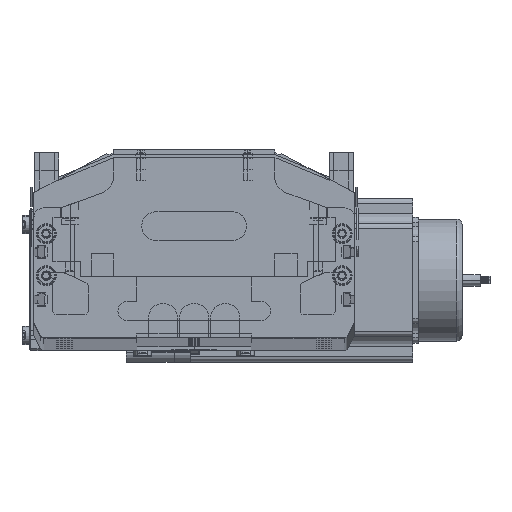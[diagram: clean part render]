
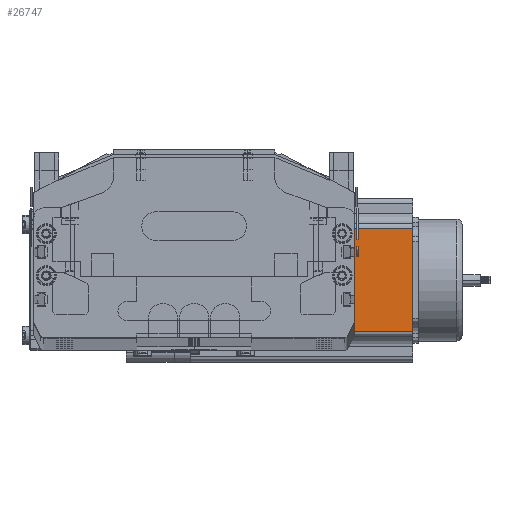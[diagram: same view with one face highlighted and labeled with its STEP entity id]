
A CAD part, top view. The second image highlights one B-rep face of the part: STEP entity #26747.
In plain terms, the highlighted planar face has unit normal (0, 0, 1) as drawn and (0, -1, 0) by its records, which use the part's own axes.
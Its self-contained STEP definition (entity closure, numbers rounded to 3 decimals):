
#4290 = DIRECTION ( 'NONE',  ( 1., 0., 0. ) ) ;
#4292 = VECTOR ( 'NONE', #4290, 1000. ) ;
#4294 = CARTESIAN_POINT ( 'NONE',  ( 0., 0., 0. ) ) ;
#4297 = LINE ( 'NONE', #4294, #4292 ) ;
#4443 = DIRECTION ( 'NONE',  ( 0., 0., 1. ) ) ;
#4445 = VECTOR ( 'NONE', #4443, 1000. ) ;
#4514 = CARTESIAN_POINT ( 'NONE',  ( 69.74, 0., 116.5 ) ) ;
#4821 = LINE ( 'NONE', #4514, #4445 ) ;
#4823 = CARTESIAN_POINT ( 'NONE',  ( 16.16, 0., 0. ) ) ;
#10069 = DIRECTION ( 'NONE',  ( 0., 0., -1. ) ) ;
#10075 = CARTESIAN_POINT ( 'NONE',  ( 0., 0., 116.5 ) ) ;
#10117 = LINE ( 'NONE', #10345, #10343 ) ;
#10172 = PLANE ( 'NONE',  #10223 ) ;
#10223 = AXIS2_PLACEMENT_3D ( 'NONE', #10075, #10588, #10586 ) ;
#10246 = FACE_OUTER_BOUND ( 'NONE', #26565, .T. ) ;
#10313 = CARTESIAN_POINT ( 'NONE',  ( 16.16, 0., 116.5 ) ) ;
#10341 = DIRECTION ( 'NONE',  ( 1., 0., 0. ) ) ;
#10343 = VECTOR ( 'NONE', #10341, 1000. ) ;
#10345 = CARTESIAN_POINT ( 'NONE',  ( 0., 0., 116.5 ) ) ;
#10586 = DIRECTION ( 'NONE',  ( 0., 0., 1. ) ) ;
#10588 = DIRECTION ( 'NONE',  ( 0., 1., 0. ) ) ;
#10602 = LINE ( 'NONE', #10644, #10642 ) ;
#10642 = VECTOR ( 'NONE', #10069, 1000. ) ;
#10644 = CARTESIAN_POINT ( 'NONE',  ( 16.16, 0., 116.5 ) ) ;
#10645 = CARTESIAN_POINT ( 'NONE',  ( 69.74, 0., 0. ) ) ;
#10652 = CARTESIAN_POINT ( 'NONE',  ( 69.74, 0., 116.5 ) ) ;
#26565 = EDGE_LOOP ( 'NONE', ( #26757, #26751, #26763, #26795 ) ) ;
#26566 = EDGE_CURVE ( 'NONE', #26755, #26746, #4821, .T. ) ;
#26567 = EDGE_CURVE ( 'NONE', #26568, #26755, #4297, .T. ) ;
#26568 = VERTEX_POINT ( 'NONE', #4823 ) ;
#26746 = VERTEX_POINT ( 'NONE', #10652 ) ;
#26747 = ADVANCED_FACE ( 'NONE', ( #10246 ), #10172, .F. ) ;
#26748 = VERTEX_POINT ( 'NONE', #10313 ) ;
#26751 = ORIENTED_EDGE ( 'NONE', *, *, #26566, .T. ) ;
#26754 = EDGE_CURVE ( 'NONE', #26748, #26568, #10602, .T. ) ;
#26755 = VERTEX_POINT ( 'NONE', #10645 ) ;
#26757 = ORIENTED_EDGE ( 'NONE', *, *, #26567, .T. ) ;
#26763 = ORIENTED_EDGE ( 'NONE', *, *, #26764, .F. ) ;
#26764 = EDGE_CURVE ( 'NONE', #26748, #26746, #10117, .T. ) ;
#26795 = ORIENTED_EDGE ( 'NONE', *, *, #26754, .T. ) ;
